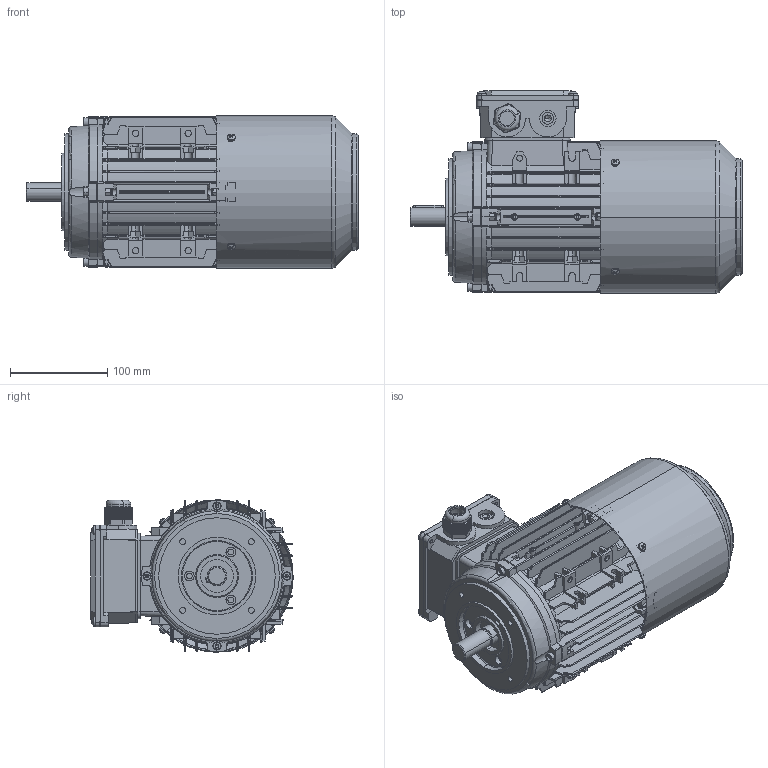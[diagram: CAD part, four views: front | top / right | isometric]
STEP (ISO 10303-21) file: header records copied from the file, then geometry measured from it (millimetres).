
FILE_DESCRIPTION (( 'STEP AP203' ), '1' );
FILE_NAME ('TB80 B14（风罩不带手柄孔）.STEP', '2021-10-21T07:32:05', ( '' ), ( '' ), 'SwSTEP 2.0', 'SolidWorks 2014', '' );
FILE_SCHEMA (( 'CONFIG_CONTROL_DESIGN' ));
Length unit declared in the file: millimetre
Products named in the file (15): 80怢宒瑞珔; T80儂褲; 陔諉盄碟裔80-100; Hexagon nuts grade C GB_GB_FASTENER_NUT_SNC1 M5-N; TB80瑞欶ㄗ祥湍忒梟謂ㄘ; Plain parallel keys_GB_CONNECTING_PIECE_KEYS_CSK 6X32; TB80 B14（风罩不带手柄孔）; 80-100堤盄蹟杶; TA80 B14傷裔1; Cross recessed thread forming screws GB_GB_CROSS_SCREWS_TYPE138 M5X12-N; TB80綴傷裔1; 陔諉盄碟釱80-100; Hexagon socket head cap screws GB_GB_FASTENER_SCREWS_HSHCS M5X25-N; TB80蛌粣; Cross recessed thread forming screws GB_GB_CROSS_SCREWS_TYPE138 M4X12-N
Assembly tree (34 placements, depth 2):
  TB80 B14（风罩不带手柄孔）
    T80儂褲
    80-100堤盄蹟杶
    Hexagon socket head cap screws GB_GB_FASTENER_SCREWS_HSHCS M5X25-N  x8
    Hexagon nuts grade C GB_GB_FASTENER_NUT_SNC1 M5-N  x8
    Cross recessed thread forming screws GB_GB_CROSS_SCREWS_TYPE138 M5X12-N  x4
    Cross recessed thread forming screws GB_GB_CROSS_SCREWS_TYPE138 M4X12-N  x4
    Plain parallel keys_GB_CONNECTING_PIECE_KEYS_CSK 6X32
    陔諉盄碟釱80-100
    陔諉盄碟裔80-100
    TA80 B14傷裔1
    TB80蛌粣
    TB80瑞欶ㄗ祥湍忒梟謂ㄘ
    TB80綴傷裔1
    80怢宒瑞珔
Bounding box: 342 x 208.54 x 157.08 mm (x, y, z)
Volume: 940401 mm3; surface area: 680674.4 mm2
Topology: 34 solids, 34 shells, 3823 faces, 10035 edges, 6343 vertices
Faces by surface type: plane 2031, cylinder 991, cone 274, bspline 226, torus 201, sphere 100
Entity records: 116456 total; most frequent: CARTESIAN_POINT 32326, ORIENTED_EDGE 17946, DIRECTION 16087, EDGE_CURVE 8973, VERTEX_POINT 5708, AXIS2_PLACEMENT_3D 5554, LINE 4979, VECTOR 4979
